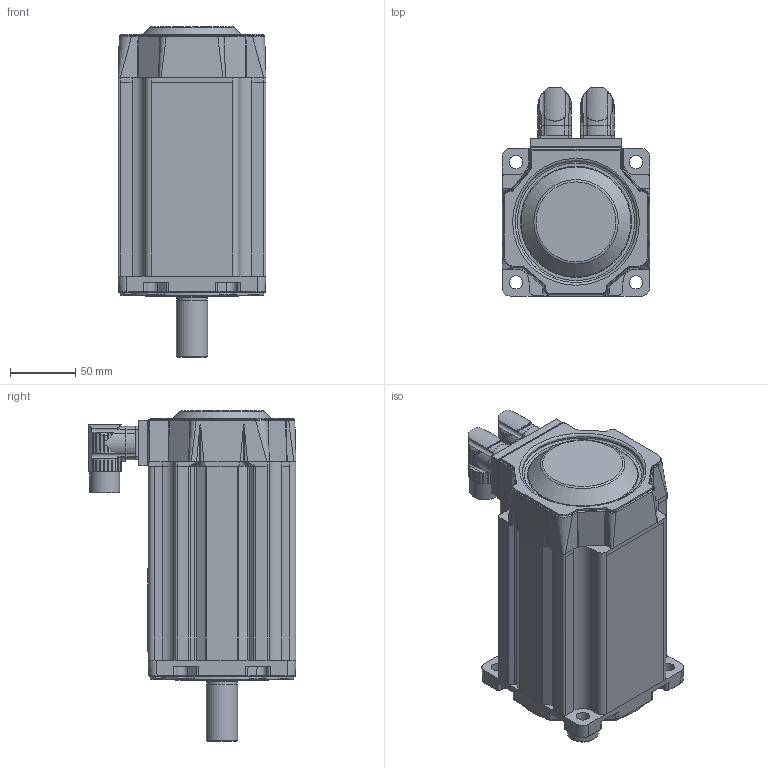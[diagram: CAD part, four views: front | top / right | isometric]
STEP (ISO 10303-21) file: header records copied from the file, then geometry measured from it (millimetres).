
FILE_DESCRIPTION((''),'2;1');
FILE_NAME('C:\Documents and Settings\jevans\My Documents\Engineering Projects\MPJ\MPJ1153XXX_NPSN.stp','2007-05-02T10:37:12',('jevans'),(''),'Autodesk Inventor 11','Autodesk Inventor 11','');
FILE_SCHEMA(('AUTOMOTIVE_DESIGN { 1 0 10303 214 1 1 1 1 }'));
Length unit declared in the file: inch
Products named in the file (3): MPJ1153XXX_NPSN; MPP115_MOTOR_1; MPP115_MOTOR_2
Assembly tree (2 placements, depth 2):
  MPJ1153XXX_NPSN
    MPP115_MOTOR_1
    MPP115_MOTOR_2
Bounding box: 113.03 x 159.03 x 253.19 mm (x, y, z)
Volume: 2212557.2 mm3; surface area: 167081.4 mm2
Topology: 2 solids, 2 shells, 1012 faces, 2579 edges, 1621 vertices
Faces by surface type: cylinder 441, plane 307, bspline 158, cone 86, torus 18, sphere 2
Full cylindrical faces by diameter (mm): 0.178 x1, 1.143 x17, 2.032 x6, 2.794 x2, 6.35 x8, 6.655 x1, 10.185 x4, 19.05 x2, 19.685 x2, 22.86 x2, 23.647 x1, 24.003 x1, 24.994 x2, 31.75 x1, 47.549 x1, 54.61 x1, 61.468 x1, 62.001 x1, 62.027 x1, 62.268 x1, 65.634 x1, 69.85 x1, 71.12 x1, 93.066 x1, 109.995 x1
Entity records: 38525 total; most frequent: CARTESIAN_POINT 15104, ORIENTED_EDGE 4942, DIRECTION 4675, EDGE_CURVE 2471, AXIS2_PLACEMENT_3D 1811, VERTEX_POINT 1598, EDGE_LOOP 1163, VECTOR 1053
